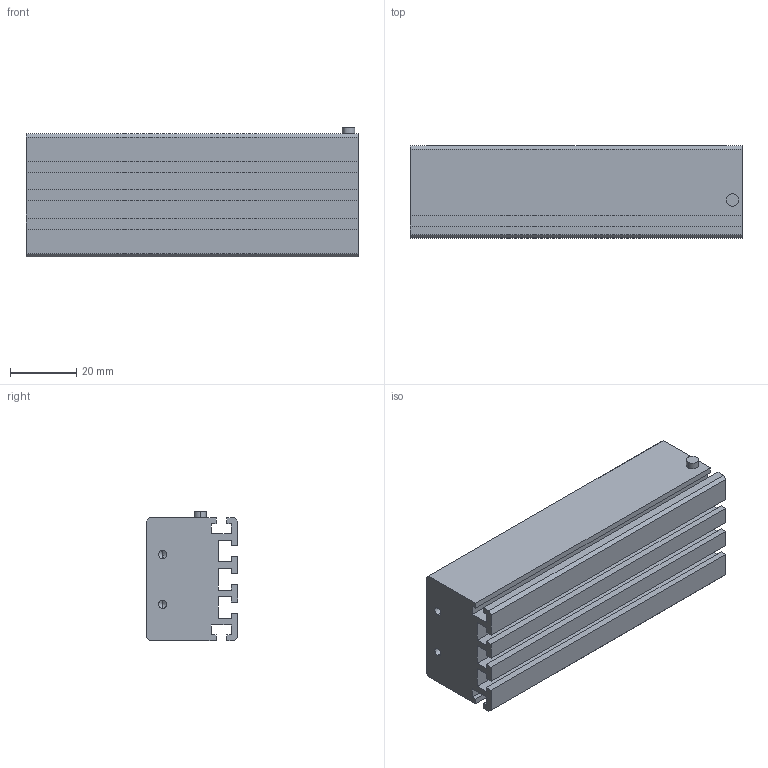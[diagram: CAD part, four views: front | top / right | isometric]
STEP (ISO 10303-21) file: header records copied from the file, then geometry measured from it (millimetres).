
FILE_DESCRIPTION (( 'STEP AP203' ), '1' );
FILE_NAME ('LRD-B6-100.STEP', '2022-08-24T03:25:34', ( 'TNT' ), ( '' ), 'SwSTEP 2.0', 'SolidWorks 2018', '' );
FILE_SCHEMA (( 'CONFIG_CONTROL_DESIGN' ));
Length unit declared in the file: millimetre
Products named in the file (1): LRD-B6-100
Bounding box: 100 x 27.7 x 39.1 mm (x, y, z)
Volume: 85174 mm3; surface area: 23440.8 mm2
Topology: 1 solids, 1 shells, 74 faces, 202 edges, 128 vertices
Faces by surface type: plane 56, cylinder 10, cone 8
Entity records: 2323 total; most frequent: CARTESIAN_POINT 397, ORIENTED_EDGE 388, DIRECTION 364, EDGE_CURVE 194, VECTOR 174, LINE 174, VERTEX_POINT 128, AXIS2_PLACEMENT_3D 95
